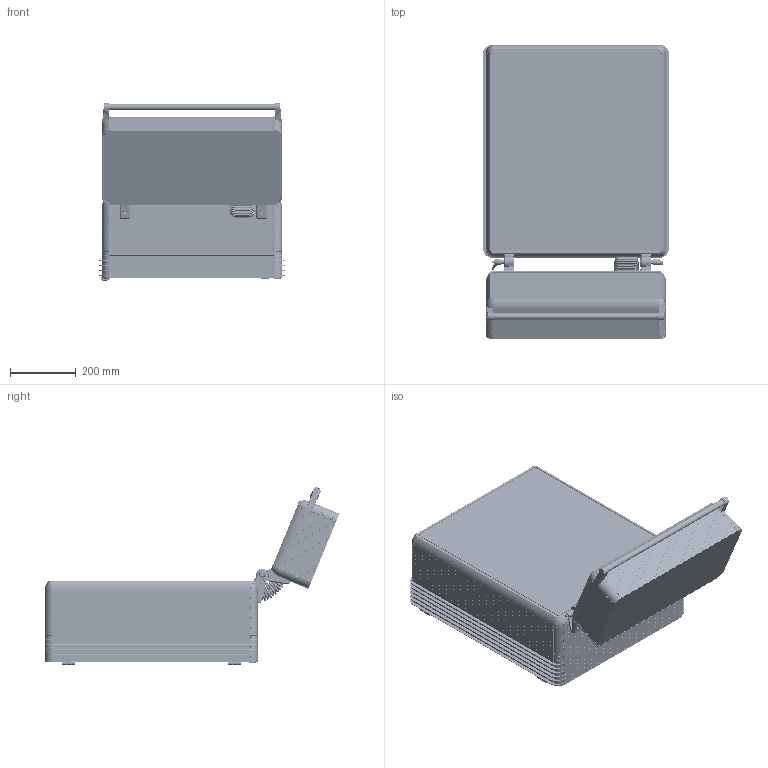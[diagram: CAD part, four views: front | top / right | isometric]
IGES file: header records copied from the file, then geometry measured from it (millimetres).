
Start section: SolidWorks IGES file using analytic representation for surfaces
Global section: file name: D:\KLAVYE\KLV 1591\1591 datalar\1591-1214.IGS; native system: SolidWorks 2022; preprocessor: SolidWorks 2022; author: User; date: 220509.162050; units: millimetre
Bounding box: 565.16 x 895.1 x 539.29 mm (x, y, z)
Surface area: 5465844.1 mm2 (no closed solid volume)
Topology: 0 solids, 0 shells, 28967 faces, 226675 edges, 225576 vertices
Faces by surface type: bspline 19139, revolution 9828
